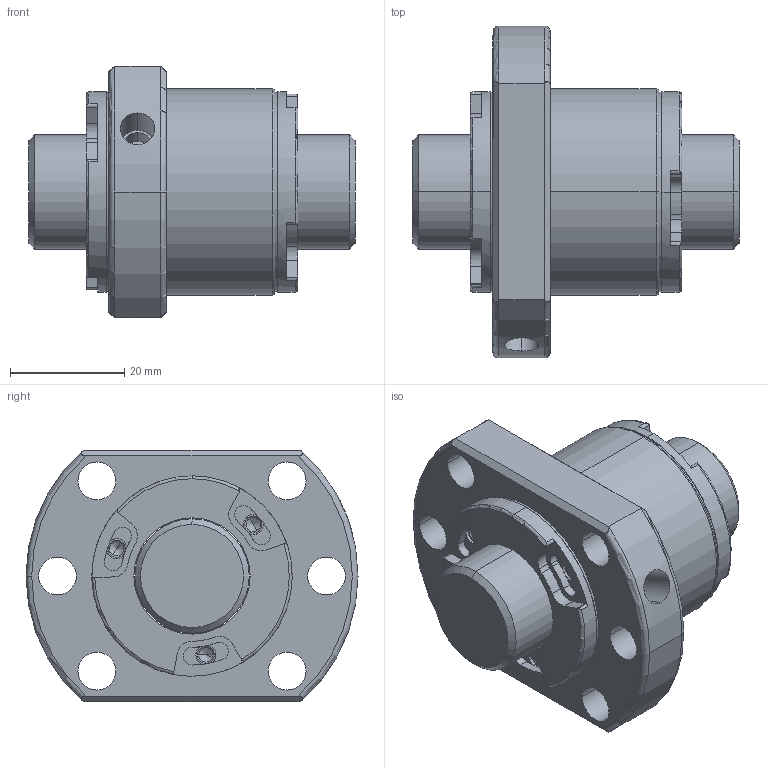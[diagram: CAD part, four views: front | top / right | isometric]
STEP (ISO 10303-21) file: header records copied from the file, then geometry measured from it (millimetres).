
FILE_DESCRIPTION (( 'STEP AP203' ), '1' );
FILE_NAME ('SFHR02005C1D-C.STEP', '2020-06-17T07:57:05', ( '' ), ( '' ), 'SwSTEP 2.0', 'SolidWorks 2013', '' );
FILE_SCHEMA (( 'CONFIG_CONTROL_DESIGN' ));
Length unit declared in the file: millimetre
Products named in the file (1): SFHR02005C1D-C
Bounding box: 57 x 58 x 44 mm (x, y, z)
Volume: 50630.4 mm3; surface area: 16881.1 mm2
Topology: 2 solids, 2 shells, 248 faces, 626 edges, 393 vertices
Faces by surface type: cylinder 135, plane 69, cone 28, torus 16
Entity records: 7872 total; most frequent: CARTESIAN_POINT 1574, DIRECTION 1459, ORIENTED_EDGE 1228, AXIS2_PLACEMENT_3D 622, EDGE_CURVE 614, VERTEX_POINT 393, CIRCLE 373, EDGE_LOOP 287
